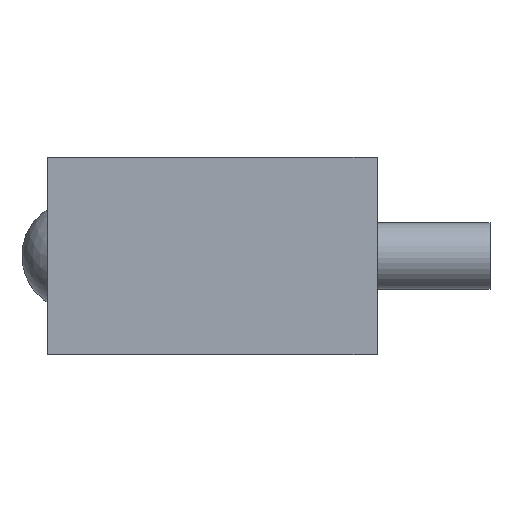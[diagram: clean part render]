
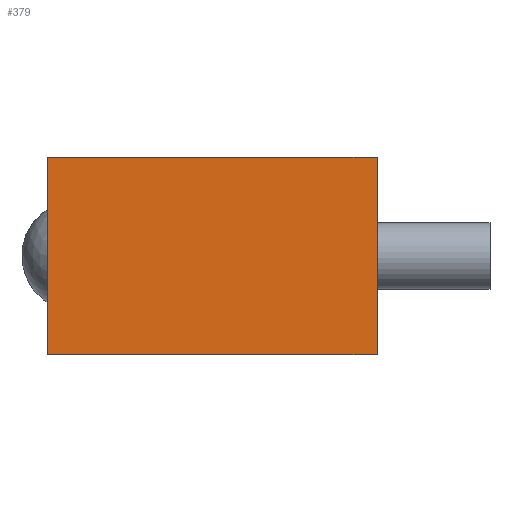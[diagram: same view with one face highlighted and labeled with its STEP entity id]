
A CAD part, left-side view. The second image highlights one B-rep face of the part: STEP entity #379.
In plain terms, the highlighted planar face has unit normal (-1, 0, 0).
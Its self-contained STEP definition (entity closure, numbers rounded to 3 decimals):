
#21=LINE('',#625,#37);
#27=LINE('',#640,#43);
#31=LINE('',#652,#47);
#33=LINE('',#655,#49);
#37=VECTOR('',#528,10.);
#43=VECTOR('',#538,10.);
#47=VECTOR('',#554,10.);
#49=VECTOR('',#558,10.);
#78=PLANE('',#447);
#104=FACE_OUTER_BOUND('',#146,.T.);
#146=EDGE_LOOP('',(#303,#304,#305,#306));
#190=VERTEX_POINT('',#623);
#191=VERTEX_POINT('',#624);
#197=VERTEX_POINT('',#637);
#198=VERTEX_POINT('',#639);
#222=EDGE_CURVE('',#190,#191,#21,.T.);
#229=EDGE_CURVE('',#197,#198,#27,.T.);
#235=EDGE_CURVE('',#198,#190,#31,.T.);
#237=EDGE_CURVE('',#191,#197,#33,.T.);
#303=ORIENTED_EDGE('',*,*,#229,.F.);
#304=ORIENTED_EDGE('',*,*,#237,.F.);
#305=ORIENTED_EDGE('',*,*,#222,.F.);
#306=ORIENTED_EDGE('',*,*,#235,.F.);
#379=ADVANCED_FACE('',(#104),#78,.T.);
#447=AXIS2_PLACEMENT_3D('',#654,#556,#557);
#528=DIRECTION('',(0.,0.,1.));
#538=DIRECTION('',(0.,0.,-1.));
#554=DIRECTION('',(0.,1.,0.));
#556=DIRECTION('center_axis',(-1.,0.,0.));
#557=DIRECTION('ref_axis',(0.,-1.,0.));
#558=DIRECTION('',(0.,-1.,0.));
#623=CARTESIAN_POINT('',(-130.,14.9,-8.9));
#624=CARTESIAN_POINT('',(-130.,14.9,8.9));
#625=CARTESIAN_POINT('',(-130.,14.9,0.));
#637=CARTESIAN_POINT('',(-130.,-14.9,8.9));
#639=CARTESIAN_POINT('',(-130.,-14.9,-8.9));
#640=CARTESIAN_POINT('',(-130.,-14.9,0.));
#652=CARTESIAN_POINT('',(-130.,14.9,-8.9));
#654=CARTESIAN_POINT('Origin',(-130.,14.9,0.));
#655=CARTESIAN_POINT('',(-130.,14.9,8.9));
